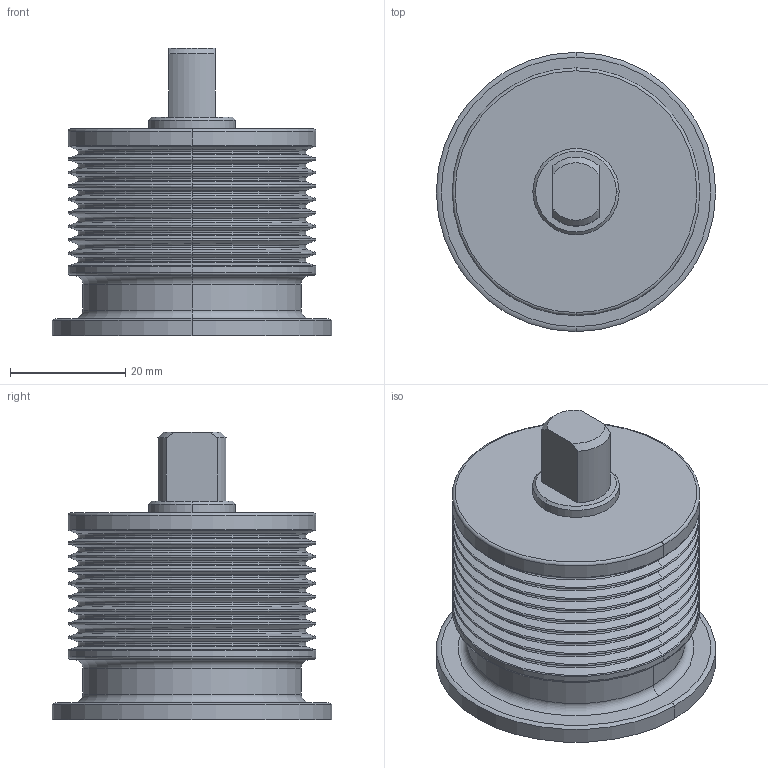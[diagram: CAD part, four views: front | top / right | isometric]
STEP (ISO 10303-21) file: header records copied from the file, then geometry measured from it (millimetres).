
FILE_DESCRIPTION (( 'STEP AP203' ), '1' );
FILE_NAME ('Žæ•t‘¤VRP486.STEP', '2022-05-30T00:46:57', ( '' ), ( '' ), 'SwSTEP 2.0', 'SolidWorks 2017', '' );
FILE_SCHEMA (( 'CONFIG_CONTROL_DESIGN' ));
Length unit declared in the file: millimetre
Products named in the file (1): 取付側VRP486
Bounding box: 48.5 x 48.5 x 50 mm (x, y, z)
Volume: 49657 mm3; surface area: 11889.8 mm2
Topology: 1 solids, 1 shells, 144 faces, 290 edges, 152 vertices
Faces by surface type: torus 66, cone 40, cylinder 30, plane 8
Entity records: 3795 total; most frequent: DIRECTION 788, CARTESIAN_POINT 599, ORIENTED_EDGE 580, AXIS2_PLACEMENT_3D 357, EDGE_CURVE 290, CIRCLE 212, VERTEX_POINT 152, EDGE_LOOP 148
